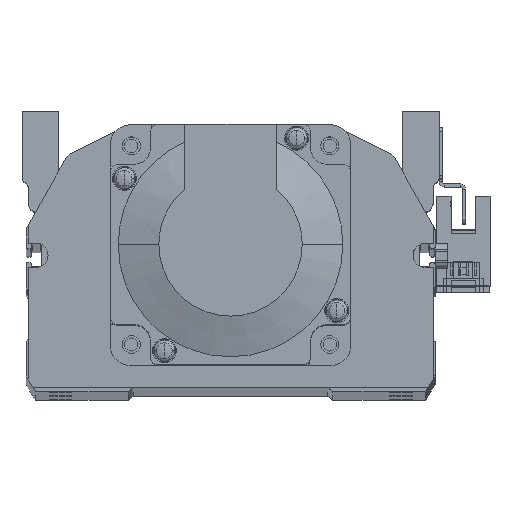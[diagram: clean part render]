
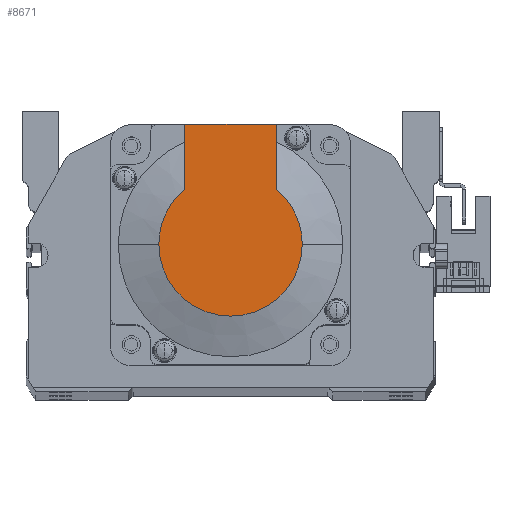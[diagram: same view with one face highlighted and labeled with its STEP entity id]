
A CAD part, top view. The second image highlights one B-rep face of the part: STEP entity #8671.
In plain terms, the highlighted planar face has unit normal (0, 0, 1) as drawn and (-1, 0, 0) by its records, which use the part's own axes.
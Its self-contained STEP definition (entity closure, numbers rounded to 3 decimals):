
#2804 = VERTEX_POINT ( 'NONE', #3369 ) ;
#3369 = CARTESIAN_POINT ( 'NONE',  ( -118.5, 0., -17.881 ) ) ;
#4111 = DIRECTION ( 'NONE',  ( -1., 0., 0. ) ) ;
#4278 = EDGE_CURVE ( 'NONE', #2804, #33186, #9861, .T. ) ;
#5075 = VERTEX_POINT ( 'NONE', #24885 ) ;
#5937 = EDGE_LOOP ( 'NONE', ( #15741, #31817, #7965, #32180, #24788, #36480 ) ) ;
#6379 = CARTESIAN_POINT ( 'NONE',  ( -118.5, 13.735, -11.45 ) ) ;
#7965 = ORIENTED_EDGE ( 'NONE', *, *, #4278, .T. ) ;
#8241 = PLANE ( 'NONE',  #39446 ) ;
#8576 = EDGE_CURVE ( 'NONE', #5075, #10873, #13484, .T. ) ;
#8671 = ADVANCED_FACE ( 'NONE', ( #29502 ), #8241, .T. ) ;
#9861 = CIRCLE ( 'NONE', #36453, 17.881 ) ;
#10873 = VERTEX_POINT ( 'NONE', #34111 ) ;
#11262 = DIRECTION ( 'NONE',  ( 0., 0., -1. ) ) ;
#11399 = DIRECTION ( 'NONE',  ( 0., 0., -1. ) ) ;
#11470 = CARTESIAN_POINT ( 'NONE',  ( -118.5, 0., 0. ) ) ;
#11686 = VERTEX_POINT ( 'NONE', #25608 ) ;
#12302 = AXIS2_PLACEMENT_3D ( 'NONE', #29466, #39462, #30280 ) ;
#13484 = LINE ( 'NONE', #35760, #37356 ) ;
#13675 = VERTEX_POINT ( 'NONE', #6379 ) ;
#13798 = EDGE_CURVE ( 'NONE', #13675, #2804, #40211, .T. ) ;
#14315 = DIRECTION ( 'NONE',  ( -1., 0., 0. ) ) ;
#15741 = ORIENTED_EDGE ( 'NONE', *, *, #25130, .T. ) ;
#16086 = EDGE_CURVE ( 'NONE', #10873, #11686, #16454, .T. ) ;
#16454 = LINE ( 'NONE', #28315, #28241 ) ;
#17424 = DIRECTION ( 'NONE',  ( 0., 0., 1. ) ) ;
#20557 = DIRECTION ( 'NONE',  ( 0., 0., 1. ) ) ;
#20963 = CARTESIAN_POINT ( 'NONE',  ( -118.5, -8.941, 0. ) ) ;
#24788 = ORIENTED_EDGE ( 'NONE', *, *, #16086, .F. ) ;
#24844 = CARTESIAN_POINT ( 'NONE',  ( -118.5, -8.941, -11.45 ) ) ;
#24885 = CARTESIAN_POINT ( 'NONE',  ( -118.5, 30., -11.45 ) ) ;
#25130 = EDGE_CURVE ( 'NONE', #5075, #13675, #34209, .T. ) ;
#25608 = CARTESIAN_POINT ( 'NONE',  ( -118.5, 13.735, 11.45 ) ) ;
#25710 = AXIS2_PLACEMENT_3D ( 'NONE', #39936, #14315, #11399 ) ;
#27768 = DIRECTION ( 'NONE',  ( 0., -1., 0. ) ) ;
#28241 = VECTOR ( 'NONE', #29140, 1000. ) ;
#28315 = CARTESIAN_POINT ( 'NONE',  ( -118.5, 0., 11.45 ) ) ;
#29140 = DIRECTION ( 'NONE',  ( 0., -1., 0. ) ) ;
#29466 = CARTESIAN_POINT ( 'NONE',  ( -118.5, 0., 0. ) ) ;
#29502 = FACE_OUTER_BOUND ( 'NONE', #5937, .T. ) ;
#30280 = DIRECTION ( 'NONE',  ( 0., 0., -1. ) ) ;
#30819 = DIRECTION ( 'NONE',  ( -1., 0., 0. ) ) ;
#31817 = ORIENTED_EDGE ( 'NONE', *, *, #13798, .T. ) ;
#32180 = ORIENTED_EDGE ( 'NONE', *, *, #33414, .T. ) ;
#33186 = VERTEX_POINT ( 'NONE', #36167 ) ;
#33414 = EDGE_CURVE ( 'NONE', #33186, #11686, #34365, .T. ) ;
#34111 = CARTESIAN_POINT ( 'NONE',  ( -118.5, 30., 11.45 ) ) ;
#34209 = LINE ( 'NONE', #24844, #34990 ) ;
#34365 = CIRCLE ( 'NONE', #25710, 17.881 ) ;
#34990 = VECTOR ( 'NONE', #27768, 1000. ) ;
#35760 = CARTESIAN_POINT ( 'NONE',  ( -118.5, 30., 25. ) ) ;
#36167 = CARTESIAN_POINT ( 'NONE',  ( -118.5, 0., 17.881 ) ) ;
#36453 = AXIS2_PLACEMENT_3D ( 'NONE', #11470, #30819, #11262 ) ;
#36480 = ORIENTED_EDGE ( 'NONE', *, *, #8576, .F. ) ;
#37356 = VECTOR ( 'NONE', #20557, 1000. ) ;
#39446 = AXIS2_PLACEMENT_3D ( 'NONE', #20963, #4111, #17424 ) ;
#39462 = DIRECTION ( 'NONE',  ( -1., 0., 0. ) ) ;
#39936 = CARTESIAN_POINT ( 'NONE',  ( -118.5, 0., 0. ) ) ;
#40211 = CIRCLE ( 'NONE', #12302, 17.881 ) ;
